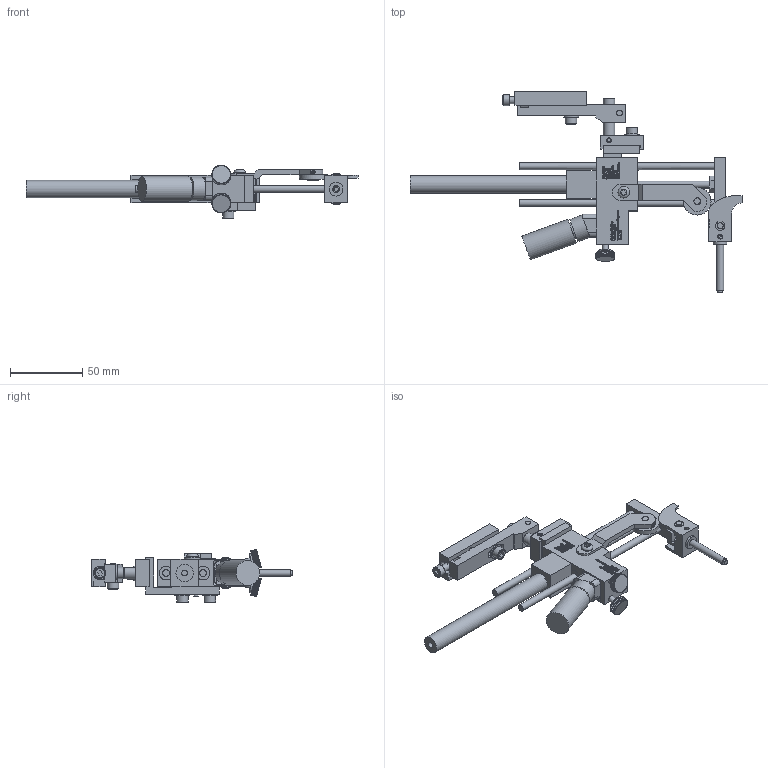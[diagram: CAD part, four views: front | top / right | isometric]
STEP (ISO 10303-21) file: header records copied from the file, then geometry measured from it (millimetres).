
FILE_DESCRIPTION((''),'2;1');
FILE_NAME('C:\Documents and Settings\Ron\My Documents\Inventor\Sprinter Drawing\Machines in Inventor\Model 44\Dot\1-eight\Ext Hd 1in\Brkt\90\Model 44 Ext HD 1in .125 dia dot 90 Deg w brkt.stp','2009-01-19T14:54:35',('Ron'),(''),'Autodesk Inventor 2008','Autodesk Inventor 2008','');
FILE_SCHEMA(('AUTOMOTIVE_DESIGN { 1 0 10303 214 1 1 1 1 }'));
Length unit declared in the file: inch
Products named in the file (1): Model 44 Ext HD 1in .125 dia dot 90 Deg w brkt
Bounding box: 229.34 x 138.65 x 36.82 mm (x, y, z)
Volume: 109335.5 mm3; surface area: 54077.4 mm2
Topology: 381 solids, 381 shells, 6204 faces, 15405 edges, 9528 vertices
Faces by surface type: plane 4356, bspline 1321, cylinder 472, cone 51, torus 4
Full cylindrical faces by diameter (mm): 3.112 x1, 3.175 x4, 3.302 x1, 3.962 x1, 4.064 x6, 4.166 x1, 4.699 x1, 4.75 x4, 4.775 x1, 4.826 x8, 5.08 x1, 5.156 x4, 5.207 x2, 5.41 x2, 6.096 x1, 6.299 x2, 7.239 x1, 7.62 x1, 7.925 x7, 7.938 x1, 8.128 x1, 9.017 x1, 9.398 x1, 9.525 x2, 10.312 x4, 10.922 x1, 11.036 x1, 11.938 x2, 14.478 x1, 16.256 x1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
Entity records: 197634 total; most frequent: CARTESIAN_POINT 54203, ORIENTED_EDGE 30352, DIRECTION 23588, EDGE_CURVE 15176, VECTOR 11362, LINE 11362, VERTEX_POINT 9459, EDGE_LOOP 6767
